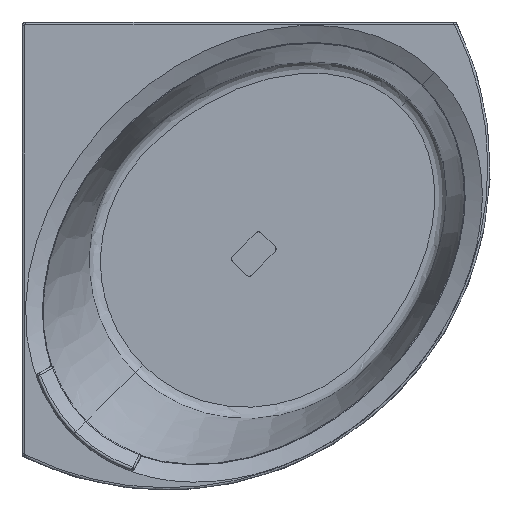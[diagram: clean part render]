
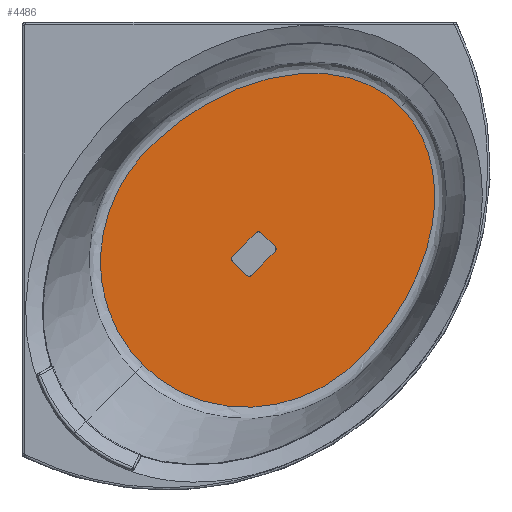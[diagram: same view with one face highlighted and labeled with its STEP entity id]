
A CAD part, top view. The second image highlights one B-rep face of the part: STEP entity #4486.
In plain terms, the highlighted planar face has unit normal (0, 0, 1).
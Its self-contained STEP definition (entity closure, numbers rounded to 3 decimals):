
#1098=CARTESIAN_POINT('',(685.872,-756.583,-500.478));
#1099=VERTEX_POINT('',#1098);
#1117=CARTESIAN_POINT('',(671.73,-756.583,-500.478));
#1118=VERTEX_POINT('',#1117);
#1125=CARTESIAN_POINT('',(679.425,-759.492,-500.478));
#1126=VERTEX_POINT('',#1125);
#1127=CARTESIAN_POINT('',(678.801,-749.512,-500.478));
#1128=DIRECTION('',(0.0,0.0,1.0));
#1129=DIRECTION('',(-0.707,-0.707,0.0));
#1130=AXIS2_PLACEMENT_3D('',#1127,#1128,#1129);
#1131=CIRCLE('',#1130,10.0);
#1132=EDGE_CURVE('',#1118,#1126,#1131,.T.);
#1134=CARTESIAN_POINT('',(678.801,-749.512,-500.478));
#1135=DIRECTION('',(0.0,0.0,1.0));
#1136=DIRECTION('',(-0.707,-0.707,0.0));
#1137=AXIS2_PLACEMENT_3D('',#1134,#1135,#1136);
#1138=CIRCLE('',#1137,10.0);
#1139=EDGE_CURVE('',#1126,#1099,#1138,.T.);
#1149=CARTESIAN_POINT('',(756.583,-685.872,-500.478));
#1150=VERTEX_POINT('',#1149);
#1151=CARTESIAN_POINT('',(685.872,-756.583,-500.478));
#1152=DIRECTION('',(0.707,0.707,0.0));
#1153=VECTOR('',#1152,100.);
#1154=LINE('',#1151,#1153);
#1155=EDGE_CURVE('',#1099,#1150,#1154,.T.);
#1180=CARTESIAN_POINT('',(756.583,-671.73,-500.478));
#1181=VERTEX_POINT('',#1180);
#1198=CARTESIAN_POINT('',(759.492,-679.425,-500.478));
#1199=VERTEX_POINT('',#1198);
#1200=CARTESIAN_POINT('',(749.512,-678.801,-500.478));
#1201=DIRECTION('',(0.0,0.0,1.));
#1202=DIRECTION('',(0.707,-0.707,0.0));
#1203=AXIS2_PLACEMENT_3D('',#1200,#1201,#1202);
#1204=CIRCLE('',#1203,10.0);
#1205=EDGE_CURVE('',#1150,#1199,#1204,.T.);
#1207=CARTESIAN_POINT('',(749.512,-678.801,-500.478));
#1208=DIRECTION('',(0.0,0.0,1.));
#1209=DIRECTION('',(0.707,-0.707,0.0));
#1210=AXIS2_PLACEMENT_3D('',#1207,#1208,#1209);
#1211=CIRCLE('',#1210,10.0);
#1212=EDGE_CURVE('',#1199,#1181,#1211,.T.);
#1222=CARTESIAN_POINT('',(714.156,-629.303,-500.478));
#1223=VERTEX_POINT('',#1222);
#1224=CARTESIAN_POINT('',(756.583,-671.73,-500.478));
#1225=DIRECTION('',(-0.707,0.707,0.0));
#1226=VECTOR('',#1225,60.0);
#1227=LINE('',#1224,#1226);
#1228=EDGE_CURVE('',#1181,#1223,#1227,.T.);
#1253=CARTESIAN_POINT('',(700.014,-629.303,-500.478));
#1254=VERTEX_POINT('',#1253);
#1271=CARTESIAN_POINT('',(706.461,-626.394,-500.478));
#1272=VERTEX_POINT('',#1271);
#1273=CARTESIAN_POINT('',(707.085,-636.375,-500.478));
#1274=DIRECTION('',(0.0,0.0,1.0));
#1275=DIRECTION('',(0.707,0.707,0.0));
#1276=AXIS2_PLACEMENT_3D('',#1273,#1274,#1275);
#1277=CIRCLE('',#1276,10.0);
#1278=EDGE_CURVE('',#1223,#1272,#1277,.T.);
#1280=CARTESIAN_POINT('',(707.085,-636.375,-500.478));
#1281=DIRECTION('',(0.0,0.0,1.0));
#1282=DIRECTION('',(0.707,0.707,0.0));
#1283=AXIS2_PLACEMENT_3D('',#1280,#1281,#1282);
#1284=CIRCLE('',#1283,10.0);
#1285=EDGE_CURVE('',#1272,#1254,#1284,.T.);
#1295=CARTESIAN_POINT('',(629.303,-700.014,-500.478));
#1296=VERTEX_POINT('',#1295);
#1297=CARTESIAN_POINT('',(700.014,-629.303,-500.478));
#1298=DIRECTION('',(-0.707,-0.707,0.0));
#1299=VECTOR('',#1298,100.);
#1300=LINE('',#1297,#1299);
#1301=EDGE_CURVE('',#1254,#1296,#1300,.T.);
#1326=CARTESIAN_POINT('',(629.303,-714.156,-500.478));
#1327=VERTEX_POINT('',#1326);
#1344=CARTESIAN_POINT('',(626.394,-706.461,-500.478));
#1345=VERTEX_POINT('',#1344);
#1346=CARTESIAN_POINT('',(636.375,-707.085,-500.478));
#1347=DIRECTION('',(0.0,0.0,1.0));
#1348=DIRECTION('',(-0.707,-0.707,0.0));
#1349=AXIS2_PLACEMENT_3D('',#1346,#1347,#1348);
#1350=CIRCLE('',#1349,10.0);
#1351=EDGE_CURVE('',#1296,#1345,#1350,.T.);
#1353=CARTESIAN_POINT('',(636.375,-707.085,-500.478));
#1354=DIRECTION('',(0.0,0.0,1.0));
#1355=DIRECTION('',(-0.707,-0.707,0.0));
#1356=AXIS2_PLACEMENT_3D('',#1353,#1354,#1355);
#1357=CIRCLE('',#1356,10.0);
#1358=EDGE_CURVE('',#1345,#1327,#1357,.T.);
#1368=CARTESIAN_POINT('',(629.303,-714.156,-500.478));
#1369=DIRECTION('',(0.707,-0.707,0.0));
#1370=VECTOR('',#1369,60.);
#1371=LINE('',#1368,#1370);
#1372=EDGE_CURVE('',#1327,#1118,#1371,.T.);
#4411=CARTESIAN_POINT('',(-1036.386,-580.696,-500.478));
#4412=DIRECTION('',(0.0,0.0,-1.0));
#4413=DIRECTION('',(0.707,0.707,0.0));
#4414=AXIS2_PLACEMENT_3D('',#4411,#4412,#4413);
#4415=PLANE('',#4414);
#4416=CARTESIAN_POINT('',(1132.45,-253.443,-500.478));
#4417=VERTEX_POINT('',#4416);
#4418=CARTESIAN_POINT('',(361.33,-1024.557,-500.478));
#4419=VERTEX_POINT('',#4418);
#4420=CARTESIAN_POINT('',(1132.45,-253.443,-500.478));
#4421=CARTESIAN_POINT('',(1147.352,-268.349,-500.478));
#4422=CARTESIAN_POINT('',(1178.178,-305.998,-500.478));
#4423=CARTESIAN_POINT('',(1209.495,-368.671,-500.478));
#4424=CARTESIAN_POINT('',(1230.357,-445.912,-500.478));
#4425=CARTESIAN_POINT('',(1237.133,-539.132,-500.478));
#4426=CARTESIAN_POINT('',(1222.426,-641.198,-500.478));
#4427=CARTESIAN_POINT('',(1181.523,-766.527,-500.478));
#4428=CARTESIAN_POINT('',(1125.546,-867.238,-500.478));
#4429=CARTESIAN_POINT('',(1066.029,-944.624,-500.478));
#4430=CARTESIAN_POINT('',(1035.321,-979.612,-500.478));
#4431=CARTESIAN_POINT('',(1013.2,-1002.935,-500.478));
#4432=CARTESIAN_POINT('',(993.359,-1022.484,-500.478));
#4433=CARTESIAN_POINT('',(970.297,-1042.591,-500.478));
#4434=CARTESIAN_POINT('',(934.281,-1070.11,-500.478));
#4435=CARTESIAN_POINT('',(885.573,-1099.528,-500.478));
#4436=CARTESIAN_POINT('',(808.118,-1132.775,-500.478));
#4437=CARTESIAN_POINT('',(722.58,-1151.53,-500.478));
#4438=CARTESIAN_POINT('',(616.451,-1151.627,-500.478));
#4439=CARTESIAN_POINT('',(513.171,-1128.303,-500.478));
#4440=CARTESIAN_POINT('',(423.613,-1080.096,-500.478));
#4441=CARTESIAN_POINT('',(377.147,-1040.374,-500.478));
#4442=CARTESIAN_POINT('',(361.33,-1024.557,-500.478));
#4443=B_SPLINE_CURVE_WITH_KNOTS('',3,(#4420,#4421,#4422,#4423,#4424,#4425,#4426,#4427,#4428,#4429,#4430,#4431,#4432,#4433,#4434,#4435,#4436,#4437,#4438,#4439,#4440,#4441,#4442),.UNSPECIFIED.,.F.,.U.,(4,1,1,1,1,1,1,1,1,1,1,1,1,1,1,1,1,1,1,1,4),(0.008,63.343,145.091,208.78,302.528,423.937,516.328,697.081,767.232,809.,836.694,863.658,892.534,928.436,999.552,1062.785,1180.767,1260.194,1379.936,1495.462,1562.635),.UNSPECIFIED.);
#4444=EDGE_CURVE('',#4417,#4419,#4443,.T.);
#4445=ORIENTED_EDGE('',*,*,#4444,.F.);
#4446=CARTESIAN_POINT('',(361.33,-1024.557,-500.478));
#4447=CARTESIAN_POINT('',(336.813,-1000.041,-500.478));
#4448=CARTESIAN_POINT('',(286.868,-936.232,-500.478));
#4449=CARTESIAN_POINT('',(242.167,-825.197,-500.478));
#4450=CARTESIAN_POINT('',(230.979,-710.324,-500.478));
#4451=CARTESIAN_POINT('',(246.084,-595.073,-500.478));
#4452=CARTESIAN_POINT('',(286.35,-493.688,-500.478));
#4453=CARTESIAN_POINT('',(336.227,-422.898,-500.478));
#4454=CARTESIAN_POINT('',(371.22,-384.163,-500.478));
#4455=CARTESIAN_POINT('',(399.27,-356.861,-500.478));
#4456=CARTESIAN_POINT('',(438.054,-322.406,-500.478));
#4457=CARTESIAN_POINT('',(500.766,-274.026,-500.478));
#4458=CARTESIAN_POINT('',(600.28,-213.391,-500.478));
#4459=CARTESIAN_POINT('',(714.718,-169.962,-500.478));
#4460=CARTESIAN_POINT('',(819.868,-152.526,-500.478));
#4461=CARTESIAN_POINT('',(893.996,-151.251,-500.478));
#4462=CARTESIAN_POINT('',(964.328,-160.843,-500.478));
#4463=CARTESIAN_POINT('',(1032.815,-182.617,-500.478));
#4464=CARTESIAN_POINT('',(1089.926,-215.253,-500.478));
#4465=CARTESIAN_POINT('',(1121.284,-242.279,-500.478));
#4466=CARTESIAN_POINT('',(1132.45,-253.443,-500.478));
#4467=B_SPLINE_CURVE_WITH_KNOTS('',3,(#4446,#4447,#4448,#4449,#4450,#4451,#4452,#4453,#4454,#4455,#4456,#4457,#4458,#4459,#4460,#4461,#4462,#4463,#4464,#4465,#4466),.UNSPECIFIED.,.F.,.U.,(4,1,1,1,1,1,1,1,1,1,1,1,1,1,1,1,1,1,4),(0.0,104.268,240.864,354.83,447.672,587.804,678.652,706.357,744.338,796.03,861.942,981.756,1144.756,1226.544,1300.639,1366.542,1438.864,1515.217,1562.626),.UNSPECIFIED.);
#4468=EDGE_CURVE('',#4419,#4417,#4467,.T.);
#4469=ORIENTED_EDGE('',*,*,#4468,.F.);
#4470=EDGE_LOOP('',(#4445,#4469));
#4471=FACE_OUTER_BOUND('',#4470,.T.);
#4472=ORIENTED_EDGE('',*,*,#1351,.F.);
#4473=ORIENTED_EDGE('',*,*,#1301,.F.);
#4474=ORIENTED_EDGE('',*,*,#1285,.F.);
#4475=ORIENTED_EDGE('',*,*,#1278,.F.);
#4476=ORIENTED_EDGE('',*,*,#1228,.F.);
#4477=ORIENTED_EDGE('',*,*,#1212,.F.);
#4478=ORIENTED_EDGE('',*,*,#1205,.F.);
#4479=ORIENTED_EDGE('',*,*,#1155,.F.);
#4480=ORIENTED_EDGE('',*,*,#1139,.F.);
#4481=ORIENTED_EDGE('',*,*,#1132,.F.);
#4482=ORIENTED_EDGE('',*,*,#1372,.F.);
#4483=ORIENTED_EDGE('',*,*,#1358,.F.);
#4484=EDGE_LOOP('',(#4472,#4473,#4474,#4475,#4476,#4477,#4478,#4479,#4480,#4481,#4482,#4483));
#4485=FACE_BOUND('',#4484,.T.);
#4486=ADVANCED_FACE('',(#4471,#4485),#4415,.F.);
